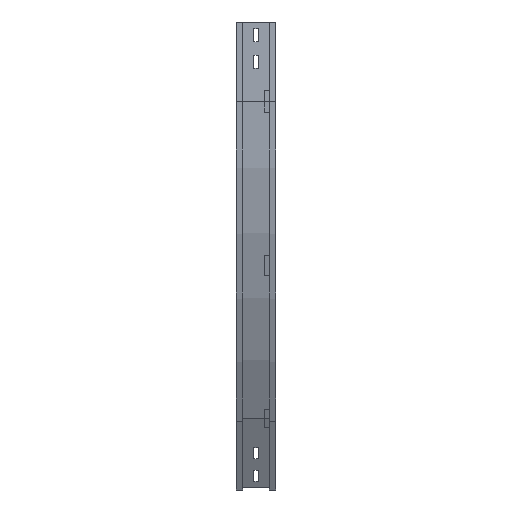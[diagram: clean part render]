
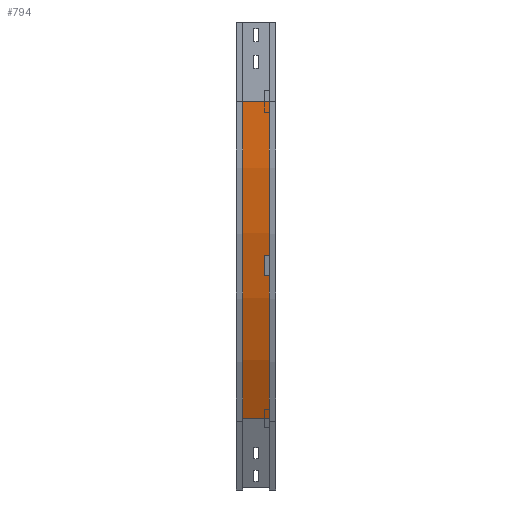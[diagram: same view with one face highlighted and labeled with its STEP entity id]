
A CAD part, left-side view. The second image highlights one B-rep face of the part: STEP entity #794.
In plain terms, the highlighted cylindrical face has radius 1200 mm (diameter 2400 mm), a partial arc.
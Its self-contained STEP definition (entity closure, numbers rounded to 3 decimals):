
#27 = VERTEX_POINT ( 'NONE', #83 ) ;
#57 = EDGE_CURVE ( 'NONE', #2303, #2352, #1750, .T. ) ;
#83 = CARTESIAN_POINT ( 'NONE',  ( 169.77, 63., -750. ) ) ;
#131 = DIRECTION ( 'NONE',  ( -1., 0., 0. ) ) ;
#235 = DIRECTION ( 'NONE',  ( 0., -1., 0. ) ) ;
#354 = CARTESIAN_POINT ( 'NONE',  ( 1209., 63., -150. ) ) ;
#385 = DIRECTION ( 'NONE',  ( 0., -1., 0. ) ) ;
#435 = CIRCLE ( 'NONE', #1541, 1200. ) ;
#497 = DIRECTION ( 'NONE',  ( 0., -1., 0. ) ) ;
#504 = EDGE_CURVE ( 'NONE', #2303, #27, #435, .T. ) ;
#675 = DIRECTION ( 'NONE',  ( 0., -1., 0. ) ) ;
#700 = CARTESIAN_POINT ( 'NONE',  ( 9., 12., -150. ) ) ;
#794 = ADVANCED_FACE ( 'NONE', ( #2612 ), #3182, .T. ) ;
#843 = LINE ( 'NONE', #2893, #2343 ) ;
#987 = EDGE_LOOP ( 'NONE', ( #1329, #2089, #2189, #1400 ) ) ;
#1059 = DIRECTION ( 'NONE',  ( 0., -1., 0. ) ) ;
#1079 = CARTESIAN_POINT ( 'NONE',  ( 169.77, 12., -750. ) ) ;
#1145 = CIRCLE ( 'NONE', #2247, 1200. ) ;
#1329 = ORIENTED_EDGE ( 'NONE', *, *, #2828, .F. ) ;
#1400 = ORIENTED_EDGE ( 'NONE', *, *, #2577, .T. ) ;
#1541 = AXIS2_PLACEMENT_3D ( 'NONE', #354, #385, #131 ) ;
#1750 = LINE ( 'NONE', #2777, #3361 ) ;
#1881 = CARTESIAN_POINT ( 'NONE',  ( 1209., 12., -150. ) ) ;
#2089 = ORIENTED_EDGE ( 'NONE', *, *, #57, .F. ) ;
#2098 = DIRECTION ( 'NONE',  ( 0., 0., -1. ) ) ;
#2189 = ORIENTED_EDGE ( 'NONE', *, *, #504, .T. ) ;
#2247 = AXIS2_PLACEMENT_3D ( 'NONE', #1881, #235, #2860 ) ;
#2303 = VERTEX_POINT ( 'NONE', #2481 ) ;
#2343 = VECTOR ( 'NONE', #1059, 1000. ) ;
#2352 = VERTEX_POINT ( 'NONE', #700 ) ;
#2414 = CARTESIAN_POINT ( 'NONE',  ( 1209., 0., -150. ) ) ;
#2481 = CARTESIAN_POINT ( 'NONE',  ( 9., 63., -150. ) ) ;
#2570 = VERTEX_POINT ( 'NONE', #1079 ) ;
#2577 = EDGE_CURVE ( 'NONE', #27, #2570, #843, .T. ) ;
#2591 = AXIS2_PLACEMENT_3D ( 'NONE', #2414, #497, #2098 ) ;
#2612 = FACE_OUTER_BOUND ( 'NONE', #987, .T. ) ;
#2777 = CARTESIAN_POINT ( 'NONE',  ( 9., 12., -150. ) ) ;
#2828 = EDGE_CURVE ( 'NONE', #2352, #2570, #1145, .T. ) ;
#2860 = DIRECTION ( 'NONE',  ( -1., 0., 0. ) ) ;
#2893 = CARTESIAN_POINT ( 'NONE',  ( 169.77, 12., -750. ) ) ;
#3182 = CYLINDRICAL_SURFACE ( 'NONE', #2591, 1200. ) ;
#3361 = VECTOR ( 'NONE', #675, 1000. ) ;
